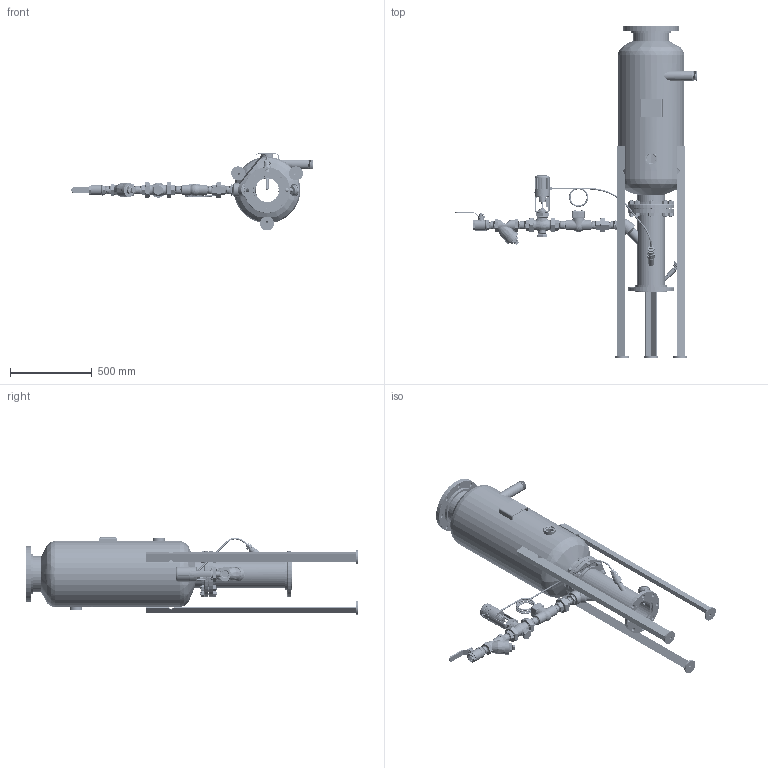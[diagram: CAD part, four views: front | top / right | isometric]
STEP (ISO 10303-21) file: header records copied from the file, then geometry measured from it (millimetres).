
FILE_DESCRIPTION(/* description */ ('MODEL # SBDS-1642-265-AC 150#'),/* implementation_level */ '2;1');
FILE_NAME(/* name */ 'P:\TONY FISCHER\SBDS PRODUCT LINE\01_R&D ASSEMBLIES\1644-286RD\SBDS-1644-286-AC_01-25-19.stp',/* time_stamp */ '2019-01-25T15:28:09-06:00',/* author */ ('Afischer'),/* organization */ (''),/* preprocessor_version */ 'ST-DEVELOPER v17',/* originating_system */ 'Autodesk Inventor 2019',/* authorisation */ '');
FILE_SCHEMA (('AUTOMOTIVE_DESIGN { 1 0 10303 214 3 1 1 }'));
Products named in the file (37): SBDS-1644-286-AC; 634-250-200_B; 634-250-200_A; 908-006-209; 908-028-010; 910-053-030; 908-039-008; 006-080-004; 910-053-030_1; 006-060-002; 760-800-001; 004-003-009; 634-000-001; 635-250-200_B; 006-060-002_1; 908-039-007; 908-006-106; 908-006-205; 908-006-100; 904-004-160; 904-004-830; 533-962-101; 636-150-150_G; 908-024-009; 908-035-027; 908-014-008; 905-026-315; 905-078-523; 908-008-004; 905-045-002; 908-027-005; 908-008-003; 905-055-015; 908-033-011; 908-032-001; 902-002-646; PROBE_1644-286_A
Assembly tree (68 placements, depth 3):
  SBDS-1644-286-AC
    634-250-200_B
      634-250-200_A
      908-006-209
      908-028-010  x2
      910-053-030
      908-039-008
      006-080-004
      910-053-030_1
      006-060-002
      908-039-007
      760-800-001
      004-003-009  x3
      634-000-001  x3
    635-250-200_B
      006-060-002_1
      908-039-007  x2
      908-006-106
      908-006-205
      908-006-100
      904-004-160
      904-004-830  x8
      533-962-101  x16
    636-150-150_G
      908-024-009
      908-035-027
      908-008-003  x3
      908-014-008
      905-026-315
      908-008-004  x2
      905-078-523
      905-045-002
      908-027-005
      905-055-015
      908-033-011
      908-032-001
      902-002-646
      PROBE_1644-286_A
Bounding box: 1478.52 x 2032 x 471.75 mm (x, y, z)
Volume: 26361016.6 mm3; surface area: 6291397.7 mm2
Topology: 82 solids, 82 shells, 4051 faces, 11013 edges, 7198 vertices
Faces by surface type: cylinder 1615, cone 1112, plane 871, bspline 374, torus 65, sphere 14
Full cylindrical faces by diameter (mm): 6.35 x4, 6.426 x1, 6.731 x4, 7.544 x1, 9.246 x1, 9.525 x8, 13.868 x1, 15.75 x392, 15.875 x8, 16.043 x24, 16.51 x1, 16.842 x25, 16.893 x2, 18.135 x1, 19.05 x411, 20.574 x1, 21.336 x2, 22.225 x32, 23.026 x1, 24.308 x1, 25.4 x2, 26.67 x1, 27.432 x1, 28.448 x1, 28.575 x1, 33.401 x2, 33.734 x1, 34.163 x1, 36.576 x1, 38.1 x8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
Entity records: 359838 total; most frequent: CARTESIAN_POINT 294116, ORIENTED_EDGE 14062, DIRECTION 12011, EDGE_CURVE 7031, AXIS2_PLACEMENT_3D 4834, VERTEX_POINT 4606, EDGE_LOOP 2812, FACE_OUTER_BOUND 2604
